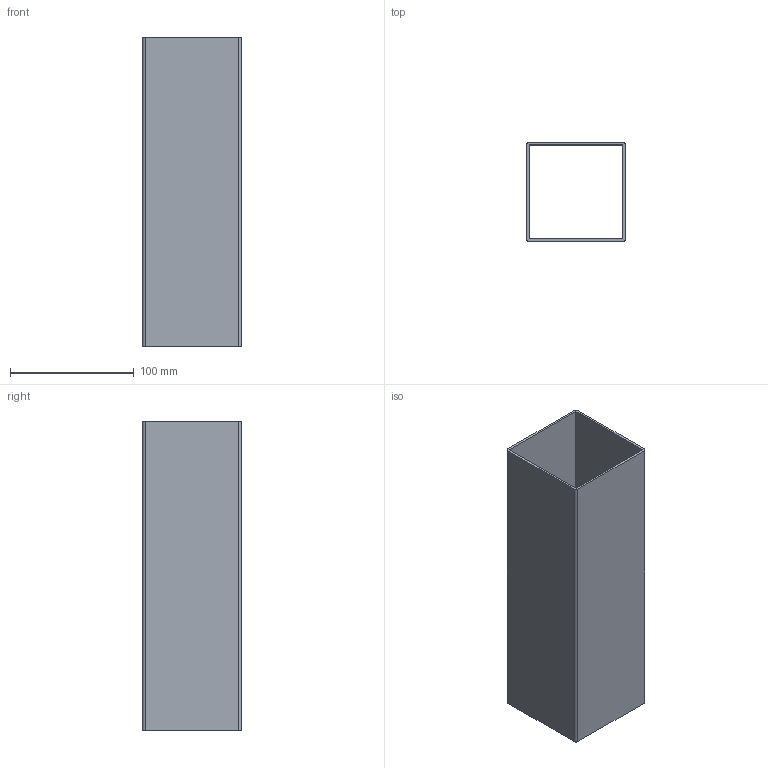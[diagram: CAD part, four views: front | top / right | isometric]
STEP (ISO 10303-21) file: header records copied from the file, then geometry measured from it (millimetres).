
FILE_DESCRIPTION(/* description */ ('FYRKANTSRÖR 80X80'),/* implementation_level */ '2;1');
FILE_NAME(/* name */ '500-1030-01.stp',/* time_stamp */ '2022-09-16T07:35:26+02:00',/* author */ ('Mathias.Dore'),/* organization */ ('CARRYLINE'),/* preprocessor_version */ 'ST-DEVELOPER v19.2',/* originating_system */ 'Autodesk Inventor 2023',/* authorisation */ '');
FILE_SCHEMA (('AUTOMOTIVE_DESIGN { 1 0 10303 214 3 1 1 }'));
Length unit declared in the file: millimetre
Products named in the file (1): 500-1030-01
Bounding box: 80 x 80 x 250 mm (x, y, z)
Volume: 155141.6 mm3; surface area: 156382.7 mm2
Topology: 1 solids, 1 shells, 14 faces, 36 edges, 24 vertices
Faces by surface type: plane 10, cylinder 4
Entity records: 475 total; most frequent: CARTESIAN_POINT 75, DIRECTION 74, ORIENTED_EDGE 72, EDGE_CURVE 36, LINE 28, VECTOR 28, VERTEX_POINT 24, AXIS2_PLACEMENT_3D 23
